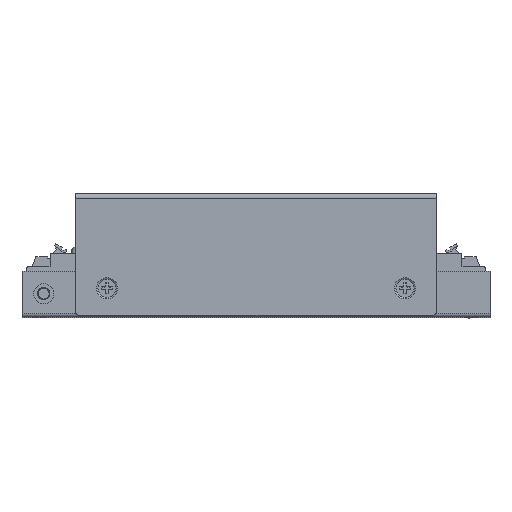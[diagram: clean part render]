
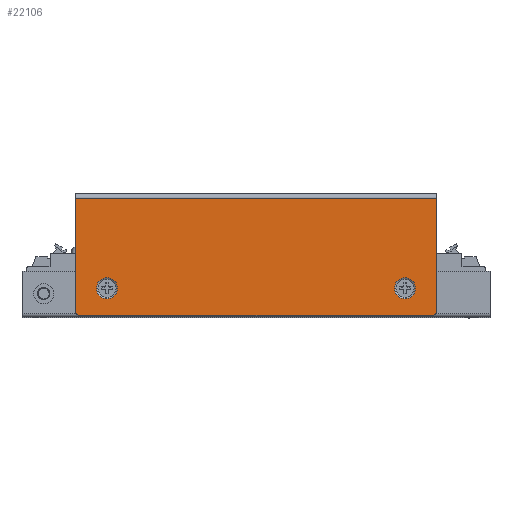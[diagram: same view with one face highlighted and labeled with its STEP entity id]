
A CAD part, top view. The second image highlights one B-rep face of the part: STEP entity #22106.
In plain terms, the highlighted planar face has unit normal (0, 0, 1).
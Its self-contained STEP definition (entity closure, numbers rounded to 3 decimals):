
#1065 = EDGE_CURVE ( 'NONE', #76335, #56267, #15539, .T. ) ;
#3232 = DIRECTION ( 'NONE',  ( 0., 1., 0. ) ) ;
#3774 = ORIENTED_EDGE ( 'NONE', *, *, #44358, .F. ) ;
#3934 = EDGE_CURVE ( 'NONE', #19538, #85475, #41705, .T. ) ;
#4482 = VECTOR ( 'NONE', #49247, 1000. ) ;
#4517 = VECTOR ( 'NONE', #107079, 1000. ) ;
#5979 = AXIS2_PLACEMENT_3D ( 'NONE', #118589, #48391, #47762 ) ;
#6675 = DIRECTION ( 'NONE',  ( 0., -1., 0. ) ) ;
#7540 = LINE ( 'NONE', #8159, #4517 ) ;
#7609 = DIRECTION ( 'NONE',  ( 0., 0., 1. ) ) ;
#8159 = CARTESIAN_POINT ( 'NONE',  ( -88.427, -21.472, 28.95 ) ) ;
#8174 = DIRECTION ( 'NONE',  ( 0., -1., 0. ) ) ;
#8557 = CARTESIAN_POINT ( 'NONE',  ( -88.427, -21.472, 28.95 ) ) ;
#9702 = DIRECTION ( 'NONE',  ( 0., 0., 1. ) ) ;
#10331 = CARTESIAN_POINT ( 'NONE',  ( 11.573, -52.572, 28.95 ) ) ;
#11906 = VERTEX_POINT ( 'NONE', #61523 ) ;
#15042 = EDGE_LOOP ( 'NONE', ( #39159, #91670, #107248, #46582, #59926, #72950 ) ) ;
#15539 = LINE ( 'NONE', #43586, #38471 ) ;
#19538 = VERTEX_POINT ( 'NONE', #83092 ) ;
#22106 = ADVANCED_FACE ( 'NONE', ( #96056, #38084, #105820 ), #115517, .F. ) ;
#24091 = VERTEX_POINT ( 'NONE', #8557 ) ;
#27098 = AXIS2_PLACEMENT_3D ( 'NONE', #66159, #49723, #125952 ) ;
#28327 = CARTESIAN_POINT ( 'NONE',  ( 2.773, -46.372, 28.95 ) ) ;
#28475 = CIRCLE ( 'NONE', #57673, 2.9 ) ;
#29167 = CARTESIAN_POINT ( 'NONE',  ( -76.727, -46.372, 28.95 ) ) ;
#29364 = EDGE_LOOP ( 'NONE', ( #103349, #3774 ) ) ;
#31566 = AXIS2_PLACEMENT_3D ( 'NONE', #56172, #95821, #6675 ) ;
#31910 = VERTEX_POINT ( 'NONE', #54316 ) ;
#34655 = EDGE_CURVE ( 'NONE', #85475, #90616, #127239, .T. ) ;
#38084 = FACE_OUTER_BOUND ( 'NONE', #15042, .T. ) ;
#38471 = VECTOR ( 'NONE', #3232, 1000. ) ;
#39159 = ORIENTED_EDGE ( 'NONE', *, *, #1065, .T. ) ;
#41705 = CIRCLE ( 'NONE', #27098, 1.3 ) ;
#43586 = CARTESIAN_POINT ( 'NONE',  ( 11.573, -20.172, 28.95 ) ) ;
#44358 = EDGE_CURVE ( 'NONE', #11906, #70051, #28475, .T. ) ;
#46582 = ORIENTED_EDGE ( 'NONE', *, *, #3934, .T. ) ;
#47762 = DIRECTION ( 'NONE',  ( 1., 0., 0. ) ) ;
#48391 = DIRECTION ( 'NONE',  ( 0., 0., 1. ) ) ;
#49247 = DIRECTION ( 'NONE',  ( 1., 0., 0. ) ) ;
#49723 = DIRECTION ( 'NONE',  ( 0., 0., 1. ) ) ;
#54316 = CARTESIAN_POINT ( 'NONE',  ( 5.673, -46.372, 28.95 ) ) ;
#56172 = CARTESIAN_POINT ( 'NONE',  ( 10.273, -52.572, 28.95 ) ) ;
#56267 = VERTEX_POINT ( 'NONE', #78129 ) ;
#57673 = AXIS2_PLACEMENT_3D ( 'NONE', #88452, #100748, #61112 ) ;
#59926 = ORIENTED_EDGE ( 'NONE', *, *, #34655, .T. ) ;
#61112 = DIRECTION ( 'NONE',  ( 1., 0., 0. ) ) ;
#61523 = CARTESIAN_POINT ( 'NONE',  ( -82.527, -46.372, 28.95 ) ) ;
#64239 = CIRCLE ( 'NONE', #5979, 2.9 ) ;
#66159 = CARTESIAN_POINT ( 'NONE',  ( -87.127, -52.572, 28.95 ) ) ;
#66421 = AXIS2_PLACEMENT_3D ( 'NONE', #98834, #9702, #109862 ) ;
#67384 = LINE ( 'NONE', #77168, #112124 ) ;
#67958 = AXIS2_PLACEMENT_3D ( 'NONE', #28327, #7609, #116861 ) ;
#68755 = CARTESIAN_POINT ( 'NONE',  ( 10.273, -53.872, 28.95 ) ) ;
#69247 = EDGE_CURVE ( 'NONE', #78942, #31910, #126062, .T. ) ;
#70051 = VERTEX_POINT ( 'NONE', #29167 ) ;
#72950 = ORIENTED_EDGE ( 'NONE', *, *, #82694, .T. ) ;
#74091 = EDGE_CURVE ( 'NONE', #56267, #24091, #7540, .T. ) ;
#76335 = VERTEX_POINT ( 'NONE', #10331 ) ;
#77168 = CARTESIAN_POINT ( 'NONE',  ( -88.427, -20.172, 28.95 ) ) ;
#78129 = CARTESIAN_POINT ( 'NONE',  ( 11.573, -21.472, 28.95 ) ) ;
#78942 = VERTEX_POINT ( 'NONE', #103272 ) ;
#82694 = EDGE_CURVE ( 'NONE', #90616, #76335, #91928, .T. ) ;
#83092 = CARTESIAN_POINT ( 'NONE',  ( -88.427, -52.572, 28.95 ) ) ;
#85475 = VERTEX_POINT ( 'NONE', #90389 ) ;
#86710 = AXIS2_PLACEMENT_3D ( 'NONE', #106477, #116161, #8174 ) ;
#88452 = CARTESIAN_POINT ( 'NONE',  ( -79.627, -46.372, 28.95 ) ) ;
#89136 = ORIENTED_EDGE ( 'NONE', *, *, #100615, .F. ) ;
#90389 = CARTESIAN_POINT ( 'NONE',  ( -87.127, -53.872, 28.95 ) ) ;
#90616 = VERTEX_POINT ( 'NONE', #68755 ) ;
#91670 = ORIENTED_EDGE ( 'NONE', *, *, #74091, .T. ) ;
#91928 = CIRCLE ( 'NONE', #31566, 1.3 ) ;
#94735 = ORIENTED_EDGE ( 'NONE', *, *, #69247, .F. ) ;
#95431 = DIRECTION ( 'NONE',  ( 0., 1., 0. ) ) ;
#95821 = DIRECTION ( 'NONE',  ( 0., 0., 1. ) ) ;
#96056 = FACE_BOUND ( 'NONE', #29364, .T. ) ;
#98280 = EDGE_LOOP ( 'NONE', ( #89136, #94735 ) ) ;
#98834 = CARTESIAN_POINT ( 'NONE',  ( -79.627, -46.372, 28.95 ) ) ;
#100615 = EDGE_CURVE ( 'NONE', #31910, #78942, #64239, .T. ) ;
#100748 = DIRECTION ( 'NONE',  ( 0., 0., 1. ) ) ;
#103272 = CARTESIAN_POINT ( 'NONE',  ( -0.127, -46.372, 28.95 ) ) ;
#103349 = ORIENTED_EDGE ( 'NONE', *, *, #127511, .F. ) ;
#105820 = FACE_BOUND ( 'NONE', #98280, .T. ) ;
#106477 = CARTESIAN_POINT ( 'NONE',  ( -88.427, -20.172, 28.95 ) ) ;
#107079 = DIRECTION ( 'NONE',  ( -1., 0., 0. ) ) ;
#107248 = ORIENTED_EDGE ( 'NONE', *, *, #107503, .F. ) ;
#107503 = EDGE_CURVE ( 'NONE', #19538, #24091, #67384, .T. ) ;
#108415 = CARTESIAN_POINT ( 'NONE',  ( -88.427, -53.872, 28.95 ) ) ;
#109862 = DIRECTION ( 'NONE',  ( 1., 0., 0. ) ) ;
#112124 = VECTOR ( 'NONE', #95431, 1000. ) ;
#115517 = PLANE ( 'NONE',  #86710 ) ;
#116161 = DIRECTION ( 'NONE',  ( 0., 0., -1. ) ) ;
#116861 = DIRECTION ( 'NONE',  ( 1., 0., 0. ) ) ;
#118589 = CARTESIAN_POINT ( 'NONE',  ( 2.773, -46.372, 28.95 ) ) ;
#122483 = CIRCLE ( 'NONE', #66421, 2.9 ) ;
#125952 = DIRECTION ( 'NONE',  ( 0., -1., 0. ) ) ;
#126062 = CIRCLE ( 'NONE', #67958, 2.9 ) ;
#127239 = LINE ( 'NONE', #108415, #4482 ) ;
#127511 = EDGE_CURVE ( 'NONE', #70051, #11906, #122483, .T. ) ;
